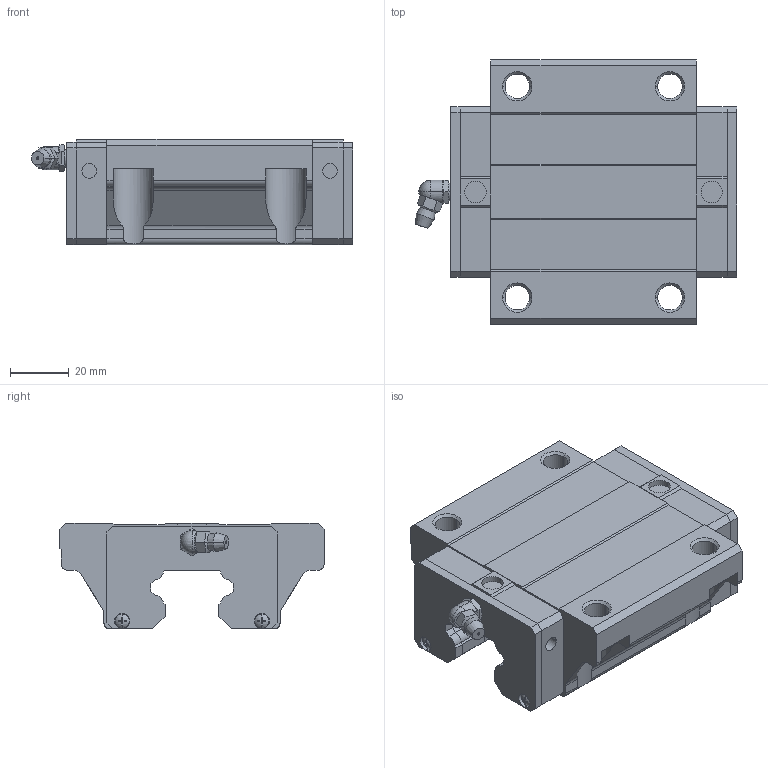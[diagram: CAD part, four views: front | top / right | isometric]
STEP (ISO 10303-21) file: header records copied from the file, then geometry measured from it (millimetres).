
FILE_DESCRIPTION(('starvars output'),'2;1');
FILE_NAME('cv20190610061053000021717.stp','06:10:53 2019/06/10',( 'Thomas Industrial Network Germany GmbH'),( 'Thomas Industrial Network Germany GmbH'),'unknown preprocess','ACIS' ,'unknown authorization');
FILE_SCHEMA(('CONFIG_CONTROL_DESIGN {UNKNOWN IMPLEMENTATION LEVEL}'));
Length unit declared in the file: millimetre
Products named in the file (10): PRODUCT_ID_1; PRODUCT_ID_2; PRODUCT_ID_3; PRODUCT_ID_4; PRODUCT_ID_5; PRODUCT_ID_6; PRODUCT_ID_7; PRODUCT_ID_8; PRODUCT_ID_9; PRODUCT_ID_10
Bounding box: 109.4 x 90 x 36 mm (x, y, z)
Volume: 193718.2 mm3; surface area: 46282.9 mm2
Topology: 10 solids, 10 shells, 409 faces, 1072 edges, 692 vertices
Faces by surface type: plane 262, cylinder 79, cone 56, sphere 12
Entity records: 12225 total; most frequent: CARTESIAN_POINT 2151, ORIENTED_EDGE 2136, DIRECTION 1645, EDGE_CURVE 1068, VERTEX_POINT 692, VECTOR 677, LINE 677, AXIS2_PLACEMENT_3D 484
